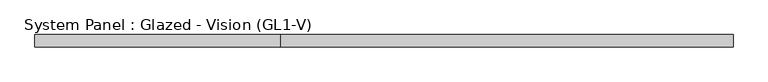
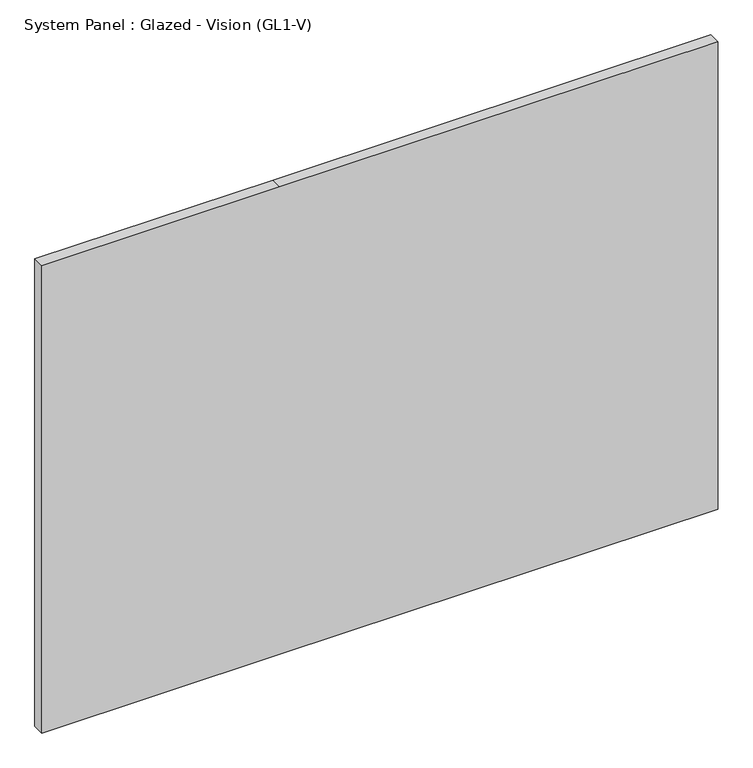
"""IFC4 building model written with IfcOpenShell, lengths in millimetres: plate geometry, System Panel : Glazed - Vision (GL1-V)."""

from ifc_helpers import new_model, si_unit, frame, origin, place, context, project, spatial, polyline, outline, extrude, source, transform, mapped, element, save


def system_panel_glazed_vision_gl1_v_3e5e1166(model_context):
    return source(origin(), model_context, "Body", "SweptSolid", [
        extrude(outline(polyline([(0.0, -730.25), (0.0, -215.9), (0.0, 730.25), (1066.8000021, 730.25), (1066.8000021, -215.9), (1066.8000021, -730.25), (0.0, -730.25)])), frame((0.0, -25.4, 0.0), z_axis=(0.0, 1.0, 0.0), x_axis=(0.0, 0.0, 1.0)), (0.0, 0.0, 1.0), 25.4),
    ])


if __name__ == "__main__":
    model = new_model("IFC4")
    model_context = context("Model", 3, world=origin())
    ifc_project = project(units=[si_unit("LENGTHUNIT", "METRE", prefix="MILLI")], contexts=[model_context])
    site = spatial("IfcSite", under=ifc_project)
    building = spatial("IfcBuilding", under=site)
    placement = place(None, origin())
    system_panel_glazed_vision_gl1_v_shape = system_panel_glazed_vision_gl1_v_3e5e1166(model_context)
    element("IfcPlate", 1, ObjectType="System Panel : Glazed - Vision (GL1-V)", at=placement, inside=building, context=model_context, shape_type="MappedRepresentation", body=[
        mapped(system_panel_glazed_vision_gl1_v_shape, transform((0.0, 0.0, 0.0), x_axis=(1.0, 0.0, 0.0), y_axis=(0.0, 1.0, 0.0), z_axis=(0.0, 0.0, 1.0))),
    ])
    save(model, "model.ifc")
